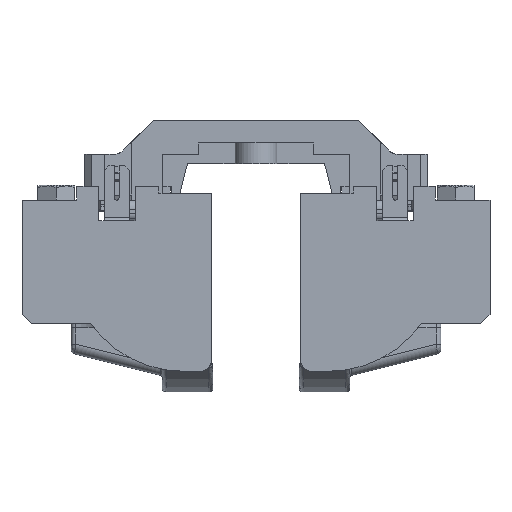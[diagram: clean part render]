
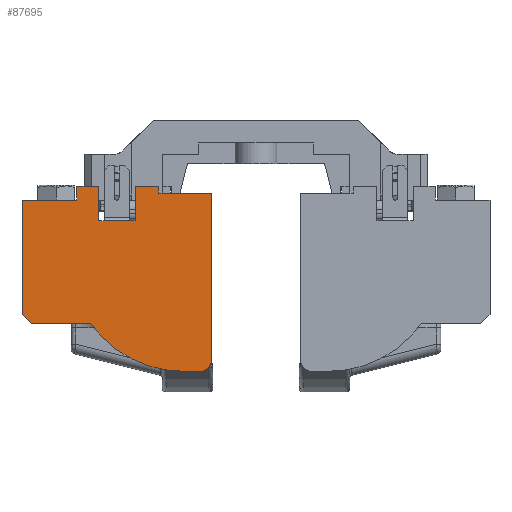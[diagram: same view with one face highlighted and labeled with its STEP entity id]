
A CAD part, front view. The second image highlights one B-rep face of the part: STEP entity #87695.
In plain terms, the highlighted planar face has unit normal (0, -1, 0) as drawn and (1, 0, 0) by its records, which use the part's own axes.
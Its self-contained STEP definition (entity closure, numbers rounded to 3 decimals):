
#139 = CARTESIAN_POINT ( 'NONE',  ( 30., 83., -76. ) ) ;
#506 = LINE ( 'NONE', #68851, #49211 ) ;
#841 = CARTESIAN_POINT ( 'NONE',  ( 30., 60., 0. ) ) ;
#1703 = DIRECTION ( 'NONE',  ( 1., 0., 0. ) ) ;
#1780 = ORIENTED_EDGE ( 'NONE', *, *, #58633, .T. ) ;
#2087 = DIRECTION ( 'NONE',  ( 0., 0., -1. ) ) ;
#2222 = DIRECTION ( 'NONE',  ( 0., 0., -1. ) ) ;
#3639 = ORIENTED_EDGE ( 'NONE', *, *, #29750, .T. ) ;
#4644 = CARTESIAN_POINT ( 'NONE',  ( 30., 36., -15. ) ) ;
#5032 = VERTEX_POINT ( 'NONE', #82616 ) ;
#5131 = FACE_OUTER_BOUND ( 'NONE', #12790, .T. ) ;
#5306 = EDGE_CURVE ( 'NONE', #46497, #42132, #31199, .T. ) ;
#5568 = VERTEX_POINT ( 'NONE', #22374 ) ;
#7476 = VERTEX_POINT ( 'NONE', #45279 ) ;
#7922 = EDGE_CURVE ( 'NONE', #16211, #91875, #101093, .T. ) ;
#8165 = CARTESIAN_POINT ( 'NONE',  ( 30., 0., -81. ) ) ;
#9370 = EDGE_CURVE ( 'NONE', #96227, #46497, #506, .T. ) ;
#9545 = CARTESIAN_POINT ( 'NONE',  ( 30., 33.5, 0. ) ) ;
#11538 = EDGE_CURVE ( 'NONE', #76553, #5032, #29920, .T. ) ;
#12790 = EDGE_LOOP ( 'NONE', ( #98935, #77160, #96455, #72336, #23095, #3639, #78611, #63369, #101462, #48839, #1780, #42319, #62858, #36212, #59267, #18599, #27088, #16549 ) ) ;
#13076 = LINE ( 'NONE', #20313, #61687 ) ;
#13966 = VERTEX_POINT ( 'NONE', #28547 ) ;
#13998 = CARTESIAN_POINT ( 'NONE',  ( 30., 0., 0. ) ) ;
#14548 = VERTEX_POINT ( 'NONE', #48376 ) ;
#15215 = LINE ( 'NONE', #46559, #58438 ) ;
#16211 = VERTEX_POINT ( 'NONE', #139 ) ;
#16549 = ORIENTED_EDGE ( 'NONE', *, *, #39974, .T. ) ;
#16918 = CARTESIAN_POINT ( 'NONE',  ( 30., 0., 0. ) ) ;
#18454 = LINE ( 'NONE', #16918, #18895 ) ;
#18492 = DIRECTION ( 'NONE',  ( 1., 0., 0. ) ) ;
#18599 = ORIENTED_EDGE ( 'NONE', *, *, #39367, .T. ) ;
#18866 = CARTESIAN_POINT ( 'NONE',  ( 30., 24., 0. ) ) ;
#18895 = VECTOR ( 'NONE', #50295, 1000. ) ;
#20047 = CARTESIAN_POINT ( 'NONE',  ( 30., 0., 0. ) ) ;
#20078 = CARTESIAN_POINT ( 'NONE',  ( 30., 49.5, 0. ) ) ;
#20313 = CARTESIAN_POINT ( 'NONE',  ( 30., 0., -60. ) ) ;
#21092 = EDGE_CURVE ( 'NONE', #76620, #5032, #15215, .T. ) ;
#21461 = VECTOR ( 'NONE', #2087, 1000. ) ;
#21690 = AXIS2_PLACEMENT_3D ( 'NONE', #72571, #1703, #2222 ) ;
#22374 = CARTESIAN_POINT ( 'NONE',  ( 30., 60., 0. ) ) ;
#23095 = ORIENTED_EDGE ( 'NONE', *, *, #71159, .T. ) ;
#24098 = DIRECTION ( 'NONE',  ( 0., 1., 0. ) ) ;
#25092 = EDGE_CURVE ( 'NONE', #13966, #16211, #91635, .T. ) ;
#25120 = LINE ( 'NONE', #80052, #81844 ) ;
#25742 = LINE ( 'NONE', #20078, #94930 ) ;
#27088 = ORIENTED_EDGE ( 'NONE', *, *, #64717, .T. ) ;
#27992 = DIRECTION ( 'NONE',  ( 0., -1., 0. ) ) ;
#28547 = CARTESIAN_POINT ( 'NONE',  ( 30., 78., -81. ) ) ;
#29750 = EDGE_CURVE ( 'NONE', #54711, #81306, #72441, .T. ) ;
#29920 = LINE ( 'NONE', #13998, #77337 ) ;
#31199 = LINE ( 'NONE', #62514, #44937 ) ;
#31676 = LINE ( 'NONE', #841, #37479 ) ;
#31851 = DIRECTION ( 'NONE',  ( 0., -1., 0. ) ) ;
#32183 = DIRECTION ( 'NONE',  ( 0., 0., 1. ) ) ;
#32411 = CARTESIAN_POINT ( 'NONE',  ( 30., 24., 0. ) ) ;
#34461 = DIRECTION ( 'NONE',  ( 0., 0., -1. ) ) ;
#34673 = CARTESIAN_POINT ( 'NONE',  ( 30., 49.5, 0. ) ) ;
#36212 = ORIENTED_EDGE ( 'NONE', *, *, #7922, .T. ) ;
#36976 = PLANE ( 'NONE',  #73190 ) ;
#37479 = VECTOR ( 'NONE', #32183, 1000. ) ;
#37675 = LINE ( 'NONE', #70497, #38850 ) ;
#38692 = DIRECTION ( 'NONE',  ( 0., -1., 0. ) ) ;
#38850 = VECTOR ( 'NONE', #38692, 1000. ) ;
#38890 = CARTESIAN_POINT ( 'NONE',  ( 30., 30., -60. ) ) ;
#39315 = VERTEX_POINT ( 'NONE', #38890 ) ;
#39367 = EDGE_CURVE ( 'NONE', #7476, #5568, #31676, .T. ) ;
#39974 = EDGE_CURVE ( 'NONE', #81263, #96227, #25742, .T. ) ;
#40813 = DIRECTION ( 'NONE',  ( 0., -1., 0. ) ) ;
#42132 = VERTEX_POINT ( 'NONE', #4644 ) ;
#42319 = ORIENTED_EDGE ( 'NONE', *, *, #88915, .T. ) ;
#43130 = CARTESIAN_POINT ( 'NONE',  ( 30., 78., -76. ) ) ;
#44937 = VECTOR ( 'NONE', #48619, 1000. ) ;
#45279 = CARTESIAN_POINT ( 'NONE',  ( 30., 60., -3. ) ) ;
#46497 = VERTEX_POINT ( 'NONE', #86712 ) ;
#46559 = CARTESIAN_POINT ( 'NONE',  ( 30., 2., -58. ) ) ;
#47331 = AXIS2_PLACEMENT_3D ( 'NONE', #43130, #18492, #65199 ) ;
#48054 = DIRECTION ( 'NONE',  ( 0., -0.707, 0.707 ) ) ;
#48376 = CARTESIAN_POINT ( 'NONE',  ( 30., 70.731, -81. ) ) ;
#48619 = DIRECTION ( 'NONE',  ( 0., -1., 0. ) ) ;
#48839 = ORIENTED_EDGE ( 'NONE', *, *, #86971, .F. ) ;
#49211 = VECTOR ( 'NONE', #31851, 1000. ) ;
#49792 = CARTESIAN_POINT ( 'NONE',  ( 30., 83., -3. ) ) ;
#49877 = LINE ( 'NONE', #87356, #84007 ) ;
#50295 = DIRECTION ( 'NONE',  ( 0., -1., 0. ) ) ;
#50627 = CARTESIAN_POINT ( 'NONE',  ( 30., 49.5, -15. ) ) ;
#50910 = VECTOR ( 'NONE', #65442, 1000. ) ;
#53634 = CARTESIAN_POINT ( 'NONE',  ( 30., 24., -6. ) ) ;
#53851 = DIRECTION ( 'NONE',  ( 0., 0., 1. ) ) ;
#54711 = VERTEX_POINT ( 'NONE', #18866 ) ;
#57241 = LINE ( 'NONE', #73655, #50910 ) ;
#58438 = VECTOR ( 'NONE', #48054, 1000. ) ;
#58633 = EDGE_CURVE ( 'NONE', #39315, #14548, #82388, .T. ) ;
#58963 = EDGE_CURVE ( 'NONE', #71304, #90052, #49877, .T. ) ;
#59267 = ORIENTED_EDGE ( 'NONE', *, *, #96792, .T. ) ;
#61259 = DIRECTION ( 'NONE',  ( 0., 0., -1. ) ) ;
#61687 = VECTOR ( 'NONE', #27992, 1000. ) ;
#62514 = CARTESIAN_POINT ( 'NONE',  ( 30., 0., -15. ) ) ;
#62858 = ORIENTED_EDGE ( 'NONE', *, *, #25092, .T. ) ;
#63369 = ORIENTED_EDGE ( 'NONE', *, *, #11538, .T. ) ;
#64717 = EDGE_CURVE ( 'NONE', #5568, #81263, #18454, .T. ) ;
#65199 = DIRECTION ( 'NONE',  ( 0., 0., 1. ) ) ;
#65442 = DIRECTION ( 'NONE',  ( 0., -1., 0. ) ) ;
#66257 = DIRECTION ( 'NONE',  ( 1., 0., 0. ) ) ;
#68851 = CARTESIAN_POINT ( 'NONE',  ( 30., 0., -15. ) ) ;
#69812 = LINE ( 'NONE', #8165, #89564 ) ;
#70400 = VECTOR ( 'NONE', #53851, 1000. ) ;
#70497 = CARTESIAN_POINT ( 'NONE',  ( 30., 0., 0. ) ) ;
#71159 = EDGE_CURVE ( 'NONE', #90052, #54711, #37675, .T. ) ;
#71304 = VERTEX_POINT ( 'NONE', #82257 ) ;
#72336 = ORIENTED_EDGE ( 'NONE', *, *, #58963, .T. ) ;
#72441 = LINE ( 'NONE', #32411, #21461 ) ;
#72571 = CARTESIAN_POINT ( 'NONE',  ( 30., 70.731, -31. ) ) ;
#73190 = AXIS2_PLACEMENT_3D ( 'NONE', #20047, #66257, #90914 ) ;
#73655 = CARTESIAN_POINT ( 'NONE',  ( 30., 0., -3. ) ) ;
#75986 = EDGE_CURVE ( 'NONE', #81306, #76553, #25120, .T. ) ;
#76553 = VERTEX_POINT ( 'NONE', #83763 ) ;
#76620 = VERTEX_POINT ( 'NONE', #93473 ) ;
#77160 = ORIENTED_EDGE ( 'NONE', *, *, #5306, .T. ) ;
#77337 = VECTOR ( 'NONE', #61259, 1000. ) ;
#78611 = ORIENTED_EDGE ( 'NONE', *, *, #75986, .T. ) ;
#79829 = CARTESIAN_POINT ( 'NONE',  ( 30., 0., -15. ) ) ;
#80052 = CARTESIAN_POINT ( 'NONE',  ( 30., 0., -6. ) ) ;
#81263 = VERTEX_POINT ( 'NONE', #34673 ) ;
#81306 = VERTEX_POINT ( 'NONE', #53634 ) ;
#81840 = DIRECTION ( 'NONE',  ( 0., -1., 0. ) ) ;
#81844 = VECTOR ( 'NONE', #81840, 1000. ) ;
#82257 = CARTESIAN_POINT ( 'NONE',  ( 30., 33.5, -15. ) ) ;
#82388 = CIRCLE ( 'NONE', #21690, 50. ) ;
#82616 = CARTESIAN_POINT ( 'NONE',  ( 30., 0., -56. ) ) ;
#83763 = CARTESIAN_POINT ( 'NONE',  ( 30., 0., -6. ) ) ;
#84007 = VECTOR ( 'NONE', #89411, 1000. ) ;
#86712 = CARTESIAN_POINT ( 'NONE',  ( 30., 47., -15. ) ) ;
#86971 = EDGE_CURVE ( 'NONE', #39315, #76620, #13076, .T. ) ;
#87356 = CARTESIAN_POINT ( 'NONE',  ( 30., 33.5, 0. ) ) ;
#87554 = LINE ( 'NONE', #79829, #98483 ) ;
#87695 = ADVANCED_FACE ( 'NONE', ( #5131 ), #36976, .T. ) ;
#88915 = EDGE_CURVE ( 'NONE', #14548, #13966, #69812, .T. ) ;
#89411 = DIRECTION ( 'NONE',  ( 0., 0., 1. ) ) ;
#89564 = VECTOR ( 'NONE', #24098, 1000. ) ;
#90052 = VERTEX_POINT ( 'NONE', #9545 ) ;
#90914 = DIRECTION ( 'NONE',  ( 0., 0., -1. ) ) ;
#91635 = CIRCLE ( 'NONE', #47331, 5. ) ;
#91875 = VERTEX_POINT ( 'NONE', #49792 ) ;
#93473 = CARTESIAN_POINT ( 'NONE',  ( 30., 4., -60. ) ) ;
#94930 = VECTOR ( 'NONE', #34461, 1000. ) ;
#96227 = VERTEX_POINT ( 'NONE', #50627 ) ;
#96455 = ORIENTED_EDGE ( 'NONE', *, *, #96835, .T. ) ;
#96792 = EDGE_CURVE ( 'NONE', #91875, #7476, #57241, .T. ) ;
#96835 = EDGE_CURVE ( 'NONE', #42132, #71304, #87554, .T. ) ;
#98483 = VECTOR ( 'NONE', #40813, 1000. ) ;
#98935 = ORIENTED_EDGE ( 'NONE', *, *, #9370, .T. ) ;
#100589 = CARTESIAN_POINT ( 'NONE',  ( 30., 83., 0. ) ) ;
#101093 = LINE ( 'NONE', #100589, #70400 ) ;
#101462 = ORIENTED_EDGE ( 'NONE', *, *, #21092, .F. ) ;
